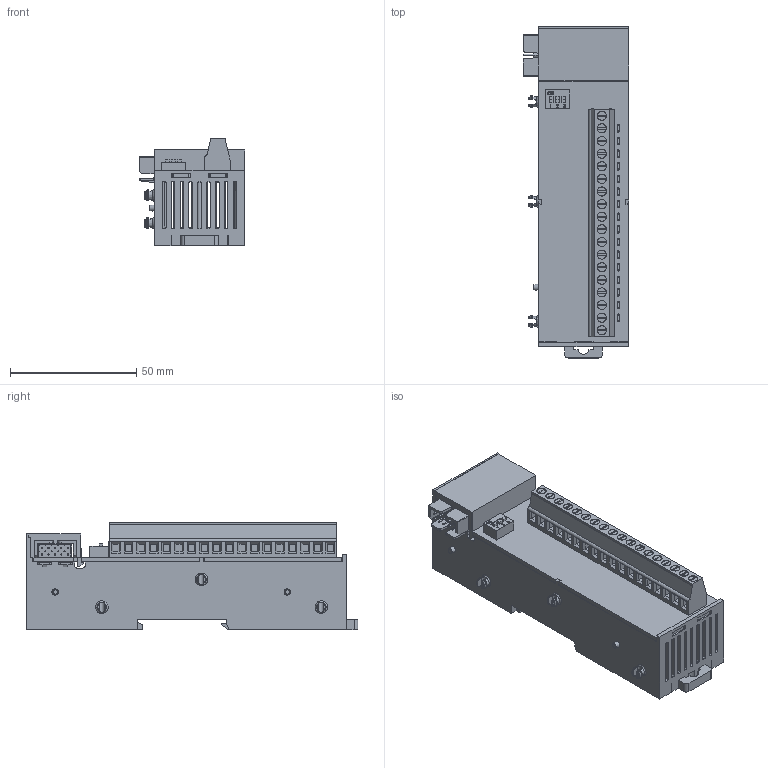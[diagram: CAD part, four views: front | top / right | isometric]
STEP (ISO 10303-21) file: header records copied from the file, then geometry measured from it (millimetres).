
FILE_DESCRIPTION (( 'STEP AP214' ), '1' );
FILE_NAME ('CFDO-16N_ASM.STEP', '2024-08-12T05:15:52', ( '' ), ( '' ), 'SwSTEP 2.0', 'SolidWorks 2020', '' );
FILE_SCHEMA (( 'AUTOMOTIVE_DESIGN' ));
Length unit declared in the file: millimetre
Products named in the file (1): CFDO-16N_ASM
Bounding box: 42 x 131.5 x 42.7 mm (x, y, z)
Volume: 47061.7 mm3; surface area: 48240.7 mm2
Topology: 1 solids, 4 shells, 1696 faces, 4409 edges, 2788 vertices
Faces by surface type: plane 1243, cylinder 245, cone 115, bspline 93
Full cylindrical faces by diameter (mm): 0.5 x40, 1.6 x18, 2 x1, 3.6 x18, 4.6 x3, 6 x1, 9 x1
Entity records: 53177 total; most frequent: CARTESIAN_POINT 13171, ORIENTED_EDGE 8452, DIRECTION 7669, EDGE_CURVE 4226, VECTOR 3185, LINE 3185, VERTEX_POINT 2746, AXIS2_PLACEMENT_3D 2242
